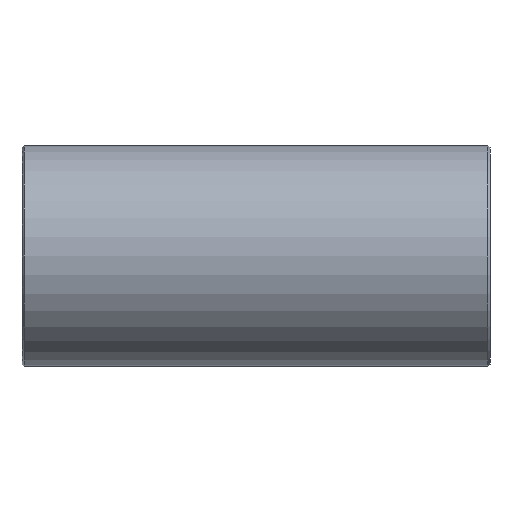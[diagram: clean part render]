
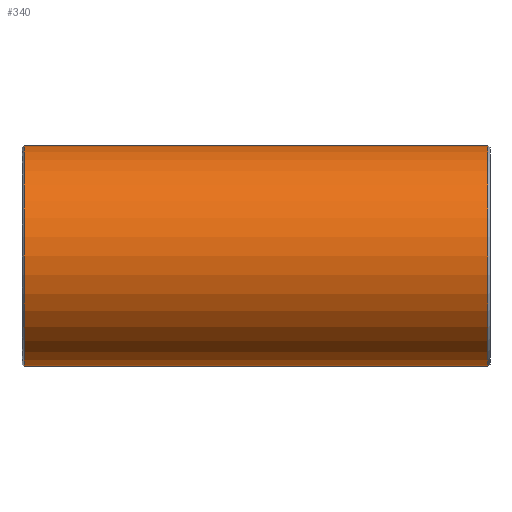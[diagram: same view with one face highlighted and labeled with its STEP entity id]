
A CAD part, front view. The second image highlights one B-rep face of the part: STEP entity #340.
In plain terms, the highlighted cylindrical face has radius 10.9 mm (diameter 21.8 mm), a full revolution.
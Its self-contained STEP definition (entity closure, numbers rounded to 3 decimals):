
#204=CARTESIAN_POINT('',(22.9,10.9,0.));
#205=VERTEX_POINT('',#204);
#206=CARTESIAN_POINT('',(22.9,0.0,0.0));
#207=DIRECTION('',(1.0,0.0,0.0));
#208=DIRECTION('',(0.0,-1.0,0.0));
#209=AXIS2_PLACEMENT_3D('',#206,#207,#208);
#210=CIRCLE('',#209,10.9);
#211=EDGE_CURVE('',#205,#205,#210,.T.);
#247=CARTESIAN_POINT('',(0.0,0.0,0.0));
#248=DIRECTION('',(1.0,0.0,0.0));
#249=DIRECTION('',(0.0,1.0,0.0));
#250=AXIS2_PLACEMENT_3D('',#247,#248,#249);
#251=CYLINDRICAL_SURFACE('',#250,10.9);
#252=CARTESIAN_POINT('',(-22.9,10.9,0.));
#253=VERTEX_POINT('',#252);
#254=CARTESIAN_POINT('',(-22.9,0.0,0.0));
#255=DIRECTION('',(-1.0,0.0,0.0));
#256=DIRECTION('',(0.0,-1.0,0.0));
#257=AXIS2_PLACEMENT_3D('',#254,#255,#256);
#258=CIRCLE('',#257,10.9);
#259=EDGE_CURVE('',#253,#253,#258,.T.);
#260=ORIENTED_EDGE('',*,*,#259,.F.);
#261=EDGE_LOOP('',(#260));
#262=FACE_OUTER_BOUND('',#261,.T.);
#263=CARTESIAN_POINT('',(0.,5.526,9.395));
#264=VERTEX_POINT('',#263);
#265=CARTESIAN_POINT('',(0.,5.526,9.395));
#266=CARTESIAN_POINT('',(0.348,5.526,9.395));
#267=CARTESIAN_POINT('',(0.81,5.556,9.378));
#268=CARTESIAN_POINT('',(1.722,5.686,9.3));
#269=CARTESIAN_POINT('',(3.147,6.03,9.089));
#270=CARTESIAN_POINT('',(4.643,6.67,8.641));
#271=CARTESIAN_POINT('',(5.716,7.219,8.169));
#272=CARTESIAN_POINT('',(6.405,7.591,7.827));
#273=CARTESIAN_POINT('',(7.15,8.017,7.4));
#274=CARTESIAN_POINT('',(7.993,8.53,6.801));
#275=CARTESIAN_POINT('',(8.558,8.888,6.317));
#276=CARTESIAN_POINT('',(9.182,9.289,5.721));
#277=CARTESIAN_POINT('',(9.901,9.764,4.906));
#278=CARTESIAN_POINT('',(10.601,10.242,3.791));
#279=CARTESIAN_POINT('',(11.006,10.521,2.882));
#280=CARTESIAN_POINT('',(11.328,10.744,1.933));
#281=CARTESIAN_POINT('',(11.513,10.874,1.002));
#282=CARTESIAN_POINT('',(11.562,10.909,-0.004));
#283=CARTESIAN_POINT('',(11.524,10.882,-0.762));
#284=CARTESIAN_POINT('',(11.413,10.804,-1.506));
#285=CARTESIAN_POINT('',(11.199,10.655,-2.363));
#286=CARTESIAN_POINT('',(10.931,10.469,-3.066));
#287=CARTESIAN_POINT('',(10.497,10.17,-3.958));
#288=CARTESIAN_POINT('',(9.897,9.762,-4.91));
#289=CARTESIAN_POINT('',(9.074,9.218,-5.843));
#290=CARTESIAN_POINT('',(8.345,8.752,-6.507));
#291=CARTESIAN_POINT('',(7.661,8.326,-7.047));
#292=CARTESIAN_POINT('',(6.61,7.699,-7.743));
#293=CARTESIAN_POINT('',(5.453,7.069,-8.311));
#294=CARTESIAN_POINT('',(4.327,6.545,-8.72));
#295=CARTESIAN_POINT('',(3.534,6.22,-8.954));
#296=CARTESIAN_POINT('',(2.707,5.938,-9.143));
#297=CARTESIAN_POINT('',(1.545,5.634,-9.333));
#298=CARTESIAN_POINT('',(0.542,5.518,-9.4));
#299=CARTESIAN_POINT('',(-0.385,5.531,-9.393));
#300=CARTESIAN_POINT('',(-1.003,5.574,-9.367));
#301=CARTESIAN_POINT('',(-2.133,5.759,-9.256));
#302=CARTESIAN_POINT('',(-3.418,6.159,-9.002));
#303=CARTESIAN_POINT('',(-4.455,6.602,-8.677));
#304=CARTESIAN_POINT('',(-5.448,7.074,-8.3));
#305=CARTESIAN_POINT('',(-6.506,7.639,-7.8));
#306=CARTESIAN_POINT('',(-7.782,8.395,-6.984));
#307=CARTESIAN_POINT('',(-8.82,9.052,-6.104));
#308=CARTESIAN_POINT('',(-9.491,9.493,-5.371));
#309=CARTESIAN_POINT('',(-9.997,9.832,-4.72));
#310=CARTESIAN_POINT('',(-10.615,10.25,-3.797));
#311=CARTESIAN_POINT('',(-11.079,10.571,-2.756));
#312=CARTESIAN_POINT('',(-11.389,10.787,-1.627));
#313=CARTESIAN_POINT('',(-11.519,10.878,-0.884));
#314=CARTESIAN_POINT('',(-11.562,10.909,0.));
#315=CARTESIAN_POINT('',(-11.522,10.881,0.816));
#316=CARTESIAN_POINT('',(-11.401,10.796,1.566));
#317=CARTESIAN_POINT('',(-11.147,10.618,2.535));
#318=CARTESIAN_POINT('',(-10.793,10.373,3.407));
#319=CARTESIAN_POINT('',(-10.171,9.949,4.495));
#320=CARTESIAN_POINT('',(-9.576,9.549,5.286));
#321=CARTESIAN_POINT('',(-8.557,8.883,6.363));
#322=CARTESIAN_POINT('',(-7.173,8.015,7.451));
#323=CARTESIAN_POINT('',(-5.64,7.161,8.234));
#324=CARTESIAN_POINT('',(-4.139,6.455,8.792));
#325=CARTESIAN_POINT('',(-2.937,5.98,9.119));
#326=CARTESIAN_POINT('',(-1.39,5.605,9.349));
#327=CARTESIAN_POINT('',(-0.464,5.526,9.395));
#328=CARTESIAN_POINT('',(0.,5.526,9.395));
#329=CARTESIAN_POINT('',(0.,5.526,9.395));
#330=CARTESIAN_POINT('',(0.,5.526,9.395));
#331=CARTESIAN_POINT('',(0.,5.526,9.395));
#332=B_SPLINE_CURVE_WITH_KNOTS('',3,(#265,#266,#267,#268,#269,#270,#271,#272,#273,#274,#275,#276,#277,#278,#279,#280,#281,#282,#283,#284,#285,#286,#287,#288,#289,#290,#291,#292,#293,#294,#295,#296,#297,#298,#299,#300,#301,#302,#303,#304,#305,#306,#307,#308,#309,#310,#311,#312,#313,#314,#315,#316,#317,#318,#319,#320,#321,#322,#323,#324,#325,#326,#327,#328,#329,#330,#331),.UNSPECIFIED.,.T.,.U.,(4,1,1,1,1,1,1,1,1,1,1,1,1,1,1,1,1,1,1,1,1,1,1,1,1,1,1,1,1,1,1,1,1,1,1,1,1,1,1,1,1,1,1,1,1,1,1,1,1,1,1,1,1,1,1,1,1,1,1,1,1,3,4),(-5.775,-5.697,-5.672,-5.568,-5.362,-5.285,-5.259,-5.156,-5.053,-4.975,-4.95,-4.812,-4.675,-4.589,-4.537,-4.4,-4.331,-4.262,-4.193,-4.125,-4.022,-3.987,-3.85,-3.712,-3.644,-3.575,-3.472,-3.3,-3.231,-3.162,-3.094,-3.025,-2.887,-2.87,-2.819,-2.75,-2.612,-2.509,-2.475,-2.337,-2.2,-2.062,-1.959,-1.925,-1.833,-1.65,-1.616,-1.512,-1.444,-1.375,-1.289,-1.237,-1.1,-1.031,-0.894,-0.825,-0.619,-0.412,-0.361,-0.206,-0.103,0.0,0.),.UNSPECIFIED.);
#333=EDGE_CURVE('',#264,#264,#332,.T.);
#334=ORIENTED_EDGE('',*,*,#333,.F.);
#335=EDGE_LOOP('',(#334));
#336=FACE_BOUND('',#335,.T.);
#337=ORIENTED_EDGE('',*,*,#211,.F.);
#338=EDGE_LOOP('',(#337));
#339=FACE_BOUND('',#338,.T.);
#340=ADVANCED_FACE('',(#262,#336,#339),#251,.T.);
